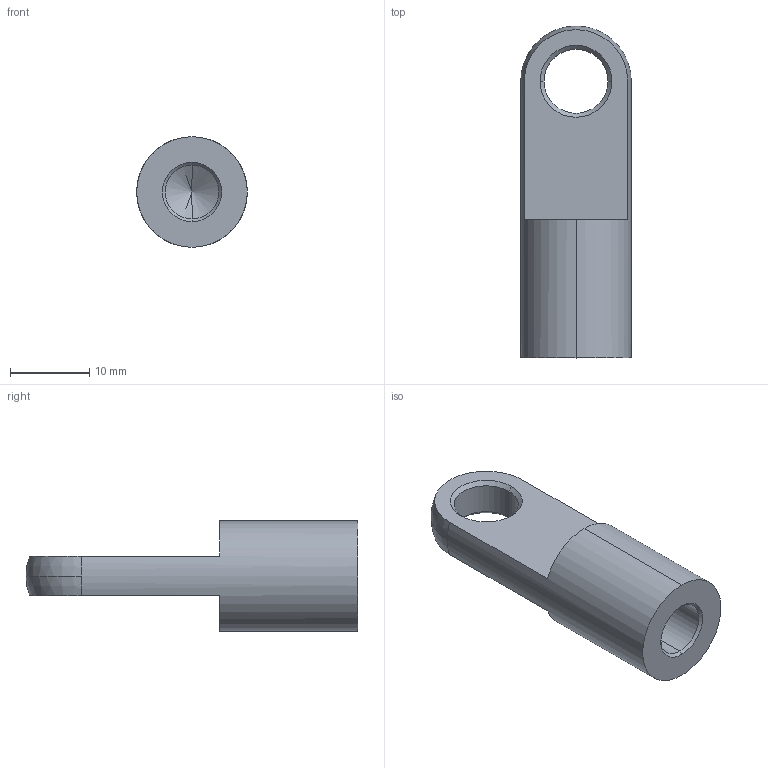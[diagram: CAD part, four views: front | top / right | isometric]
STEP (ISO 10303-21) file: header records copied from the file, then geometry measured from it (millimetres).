
FILE_DESCRIPTION (( 'STEP AP214' ), '1' );
FILE_NAME ('18.08E2STL35.STEP', '2017-11-14T10:15:39', ( '' ), ( '' ), 'SwSTEP 2.0', 'SolidWorks 2016', '' );
FILE_SCHEMA (( 'AUTOMOTIVE_DESIGN' ));
Length unit declared in the file: millimetre
Products named in the file (1): 18.08E2STL35
Bounding box: 14 x 42 x 14 mm (x, y, z)
Volume: 3534.7 mm3; surface area: 2158.1 mm2
Topology: 1 solids, 1 shells, 21 faces, 50 edges, 30 vertices
Faces by surface type: cone 8, cylinder 6, plane 5, sphere 2
Entity records: 640 total; most frequent: DIRECTION 120, CARTESIAN_POINT 100, ORIENTED_EDGE 96, AXIS2_PLACEMENT_3D 50, EDGE_CURVE 48, VERTEX_POINT 30, CIRCLE 28, EDGE_LOOP 24
